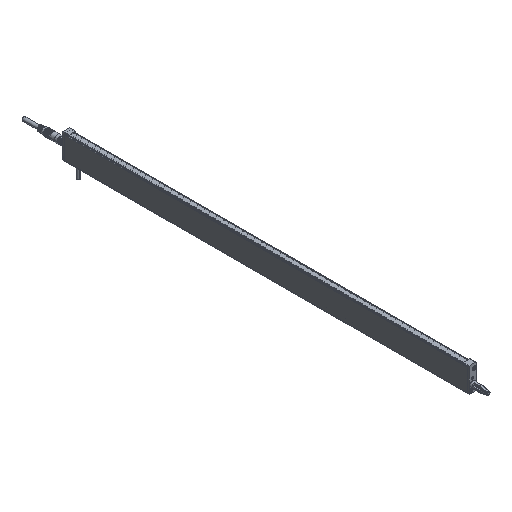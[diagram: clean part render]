
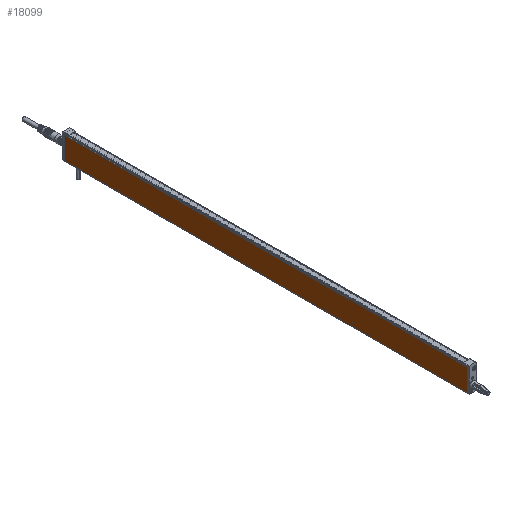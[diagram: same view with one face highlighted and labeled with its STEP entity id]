
A CAD part, isometric view. The second image highlights one B-rep face of the part: STEP entity #18099.
In plain terms, the highlighted planar face has unit normal (-1, 0, 0).
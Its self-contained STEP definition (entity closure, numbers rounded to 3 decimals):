
#650 = VERTEX_POINT ( 'NONE', #5483 ) ;
#794 = EDGE_LOOP ( 'NONE', ( #33258, #3409, #21077, #1759 ) ) ;
#1684 = DIRECTION ( 'NONE',  ( 0., -1., 0. ) ) ;
#1759 = ORIENTED_EDGE ( 'NONE', *, *, #5653, .T. ) ;
#3409 = ORIENTED_EDGE ( 'NONE', *, *, #8718, .F. ) ;
#4007 = LINE ( 'NONE', #4330, #4818 ) ;
#4330 = CARTESIAN_POINT ( 'NONE',  ( -9., 505., 28.5 ) ) ;
#4818 = VECTOR ( 'NONE', #6732, 1000. ) ;
#5371 = VERTEX_POINT ( 'NONE', #23616 ) ;
#5483 = CARTESIAN_POINT ( 'NONE',  ( -9., 505., 0.5 ) ) ;
#5653 = EDGE_CURVE ( 'NONE', #650, #27348, #15829, .T. ) ;
#5734 = LINE ( 'NONE', #21153, #12654 ) ;
#6732 = DIRECTION ( 'NONE',  ( 0., 0., -1. ) ) ;
#8718 = EDGE_CURVE ( 'NONE', #5371, #23148, #5734, .T. ) ;
#9338 = VECTOR ( 'NONE', #15052, 1000. ) ;
#9430 = DIRECTION ( 'NONE',  ( -1., 0., 0. ) ) ;
#10755 = FACE_OUTER_BOUND ( 'NONE', #794, .T. ) ;
#12654 = VECTOR ( 'NONE', #23780, 1000. ) ;
#13132 = AXIS2_PLACEMENT_3D ( 'NONE', #17313, #9430, #1684 ) ;
#14760 = EDGE_CURVE ( 'NONE', #23148, #27348, #25626, .T. ) ;
#15052 = DIRECTION ( 'NONE',  ( 0., -1., 0. ) ) ;
#15266 = CARTESIAN_POINT ( 'NONE',  ( -9., 0., 28.5 ) ) ;
#15381 = CARTESIAN_POINT ( 'NONE',  ( -9., 0., 28.5 ) ) ;
#15829 = LINE ( 'NONE', #25358, #9338 ) ;
#17313 = CARTESIAN_POINT ( 'NONE',  ( -9., 505., 28.5 ) ) ;
#18099 = ADVANCED_FACE ( 'NONE', ( #10755 ), #30121, .T. ) ;
#21077 = ORIENTED_EDGE ( 'NONE', *, *, #32253, .T. ) ;
#21153 = CARTESIAN_POINT ( 'NONE',  ( -9., 505., 28.5 ) ) ;
#22792 = DIRECTION ( 'NONE',  ( 0., 0., -1. ) ) ;
#23148 = VERTEX_POINT ( 'NONE', #15266 ) ;
#23616 = CARTESIAN_POINT ( 'NONE',  ( -9., 505., 28.5 ) ) ;
#23780 = DIRECTION ( 'NONE',  ( 0., -1., 0. ) ) ;
#25358 = CARTESIAN_POINT ( 'NONE',  ( -9., 505., 0.5 ) ) ;
#25626 = LINE ( 'NONE', #15381, #27675 ) ;
#27348 = VERTEX_POINT ( 'NONE', #33220 ) ;
#27675 = VECTOR ( 'NONE', #22792, 1000. ) ;
#30121 = PLANE ( 'NONE',  #13132 ) ;
#32253 = EDGE_CURVE ( 'NONE', #5371, #650, #4007, .T. ) ;
#33220 = CARTESIAN_POINT ( 'NONE',  ( -9., 0., 0.5 ) ) ;
#33258 = ORIENTED_EDGE ( 'NONE', *, *, #14760, .F. ) ;
